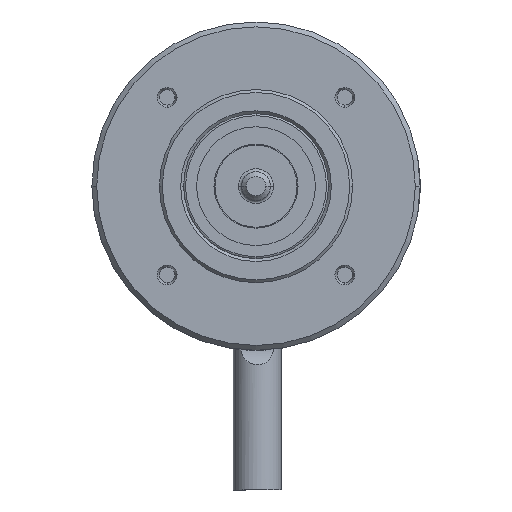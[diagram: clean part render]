
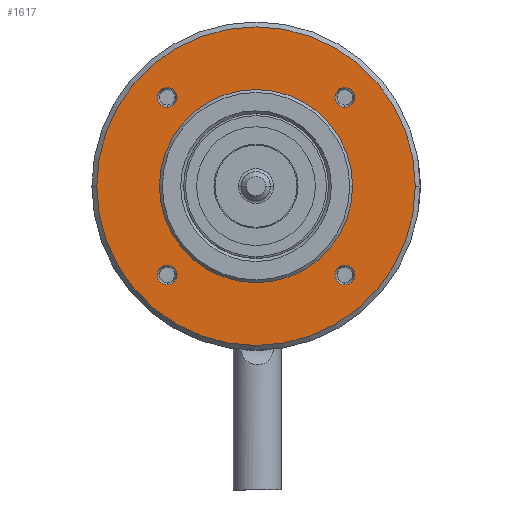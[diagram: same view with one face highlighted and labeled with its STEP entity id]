
A CAD part, left-side view. The second image highlights one B-rep face of the part: STEP entity #1617.
In plain terms, the highlighted planar face has unit normal (-1, 0, 0).
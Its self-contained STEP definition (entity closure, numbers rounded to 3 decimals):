
#73 = ORIENTED_EDGE ( 'NONE', *, *, #111, .T. ) ;
#98 = DIRECTION ( 'NONE',  ( 0., 0., 1. ) ) ;
#108 = DIRECTION ( 'NONE',  ( -1., 0., 0. ) ) ;
#111 = EDGE_CURVE ( 'NONE', #2976, #2648, #2350, .T. ) ;
#148 = PLANE ( 'NONE',  #1637 ) ;
#227 = DIRECTION ( 'NONE',  ( -1., 0., 0. ) ) ;
#234 = CARTESIAN_POINT ( 'NONE',  ( 9.545, 24.268, 16.565 ) ) ;
#487 = CARTESIAN_POINT ( 'NONE',  ( 9.545, 5.076, 25.757 ) ) ;
#550 = DIRECTION ( 'NONE',  ( -1., 0., 0. ) ) ;
#762 = EDGE_LOOP ( 'NONE', ( #3876, #3888 ) ) ;
#780 = VERTEX_POINT ( 'NONE', #4642 ) ;
#783 = CIRCLE ( 'NONE', #1080, 1.025 ) ;
#849 = DIRECTION ( 'NONE',  ( 0., 0., 1. ) ) ;
#934 = FACE_BOUND ( 'NONE', #3373, .T. ) ;
#939 = FACE_OUTER_BOUND ( 'NONE', #2884, .T. ) ;
#948 = VERTEX_POINT ( 'NONE', #1390 ) ;
#992 = AXIS2_PLACEMENT_3D ( 'NONE', #1362, #4121, #1819 ) ;
#997 = AXIS2_PLACEMENT_3D ( 'NONE', #4451, #2191, #4831 ) ;
#1023 = AXIS2_PLACEMENT_3D ( 'NONE', #4391, #2128, #4765 ) ;
#1039 = AXIS2_PLACEMENT_3D ( 'NONE', #3950, #1603, #4319 ) ;
#1057 = AXIS2_PLACEMENT_3D ( 'NONE', #4645, #2406, #98 ) ;
#1068 = AXIS2_PLACEMENT_3D ( 'NONE', #2999, #550, #3379 ) ;
#1080 = AXIS2_PLACEMENT_3D ( 'NONE', #2558, #227, #2965 ) ;
#1087 = AXIS2_PLACEMENT_3D ( 'NONE', #487, #3289, #849 ) ;
#1098 = EDGE_LOOP ( 'NONE', ( #73, #3374 ) ) ;
#1105 = AXIS2_PLACEMENT_3D ( 'NONE', #1230, #3997, #1665 ) ;
#1129 = AXIS2_PLACEMENT_3D ( 'NONE', #2423, #108, #2807 ) ;
#1155 = VERTEX_POINT ( 'NONE', #3647 ) ;
#1230 = CARTESIAN_POINT ( 'NONE',  ( 9.545, 23.46, 25.757 ) ) ;
#1362 = CARTESIAN_POINT ( 'NONE',  ( 9.545, 14.268, 16.565 ) ) ;
#1390 = CARTESIAN_POINT ( 'NONE',  ( 9.545, 23.46, 6.347 ) ) ;
#1513 = EDGE_CURVE ( 'NONE', #1155, #3925, #3896, .T. ) ;
#1590 = CARTESIAN_POINT ( 'NONE',  ( 9.545, 30.768, 16.565 ) ) ;
#1603 = DIRECTION ( 'NONE',  ( -1., 0., 0. ) ) ;
#1617 = ADVANCED_FACE ( 'NONE', ( #939, #934, #3281, #3284, #3272, #3269 ), #148, .T. ) ;
#1637 = AXIS2_PLACEMENT_3D ( 'NONE', #4370, #2098, #4737 ) ;
#1640 = CARTESIAN_POINT ( 'NONE',  ( 9.545, 23.46, 24.732 ) ) ;
#1665 = DIRECTION ( 'NONE',  ( 0., 0., 1. ) ) ;
#1718 = CIRCLE ( 'NONE', #992, 10. ) ;
#1722 = CIRCLE ( 'NONE', #997, 16.5 ) ;
#1755 = EDGE_LOOP ( 'NONE', ( #3942, #3960 ) ) ;
#1792 = CIRCLE ( 'NONE', #1039, 1.025 ) ;
#1800 = CIRCLE ( 'NONE', #1023, 1.025 ) ;
#1819 = DIRECTION ( 'NONE',  ( 0., 1., 0. ) ) ;
#1866 = CIRCLE ( 'NONE', #1068, 1.025 ) ;
#1942 = VERTEX_POINT ( 'NONE', #4221 ) ;
#1996 = AXIS2_PLACEMENT_3D ( 'NONE', #2079, #4713, #2470 ) ;
#2017 = CIRCLE ( 'NONE', #1057, 1.025 ) ;
#2024 = CIRCLE ( 'NONE', #1087, 1.025 ) ;
#2034 = CIRCLE ( 'NONE', #1105, 1.025 ) ;
#2079 = CARTESIAN_POINT ( 'NONE',  ( 9.545, 14.268, 16.565 ) ) ;
#2098 = DIRECTION ( 'NONE',  ( -1., 0., 0. ) ) ;
#2128 = DIRECTION ( 'NONE',  ( -1., 0., 0. ) ) ;
#2139 = CIRCLE ( 'NONE', #1129, 1.025 ) ;
#2174 = CARTESIAN_POINT ( 'NONE',  ( 9.545, 23.46, 26.782 ) ) ;
#2191 = DIRECTION ( 'NONE',  ( -1., 0., 0. ) ) ;
#2315 = CARTESIAN_POINT ( 'NONE',  ( 9.545, 5.076, 8.397 ) ) ;
#2350 = CIRCLE ( 'NONE', #3548, 10. ) ;
#2406 = DIRECTION ( 'NONE',  ( -1., 0., 0. ) ) ;
#2423 = CARTESIAN_POINT ( 'NONE',  ( 9.545, 23.46, 7.372 ) ) ;
#2470 = DIRECTION ( 'NONE',  ( 0., -1., 0. ) ) ;
#2558 = CARTESIAN_POINT ( 'NONE',  ( 9.545, 5.076, 7.372 ) ) ;
#2648 = VERTEX_POINT ( 'NONE', #4740 ) ;
#2807 = DIRECTION ( 'NONE',  ( 0., 0., 1. ) ) ;
#2884 = EDGE_LOOP ( 'NONE', ( #3900, #3883 ) ) ;
#2965 = DIRECTION ( 'NONE',  ( 0., 0., 1. ) ) ;
#2976 = VERTEX_POINT ( 'NONE', #234 ) ;
#2999 = CARTESIAN_POINT ( 'NONE',  ( 9.545, 5.076, 7.372 ) ) ;
#3269 = FACE_BOUND ( 'NONE', #1098, .T. ) ;
#3272 = FACE_BOUND ( 'NONE', #1755, .T. ) ;
#3281 = FACE_BOUND ( 'NONE', #762, .T. ) ;
#3284 = FACE_BOUND ( 'NONE', #4635, .T. ) ;
#3289 = DIRECTION ( 'NONE',  ( -1., 0., 0. ) ) ;
#3373 = EDGE_LOOP ( 'NONE', ( #3885, #3871 ) ) ;
#3374 = ORIENTED_EDGE ( 'NONE', *, *, #4016, .T. ) ;
#3379 = DIRECTION ( 'NONE',  ( 0., 0., 1. ) ) ;
#3460 = CARTESIAN_POINT ( 'NONE',  ( 9.545, 23.46, 8.397 ) ) ;
#3484 = CARTESIAN_POINT ( 'NONE',  ( 9.545, 5.076, 26.782 ) ) ;
#3548 = AXIS2_PLACEMENT_3D ( 'NONE', #4211, #4201, #4196 ) ;
#3647 = CARTESIAN_POINT ( 'NONE',  ( 9.545, -2.232, 16.565 ) ) ;
#3691 = EDGE_CURVE ( 'NONE', #948, #4592, #2139, .T. ) ;
#3738 = EDGE_CURVE ( 'NONE', #4231, #4810, #2034, .T. ) ;
#3780 = EDGE_CURVE ( 'NONE', #1942, #4141, #2024, .T. ) ;
#3836 = EDGE_CURVE ( 'NONE', #780, #4124, #783, .T. ) ;
#3869 = EDGE_CURVE ( 'NONE', #4124, #780, #1866, .T. ) ;
#3871 = ORIENTED_EDGE ( 'NONE', *, *, #3691, .F. ) ;
#3876 = ORIENTED_EDGE ( 'NONE', *, *, #3926, .F. ) ;
#3883 = ORIENTED_EDGE ( 'NONE', *, *, #1513, .T. ) ;
#3885 = ORIENTED_EDGE ( 'NONE', *, *, #3948, .F. ) ;
#3888 = ORIENTED_EDGE ( 'NONE', *, *, #3738, .F. ) ;
#3895 = EDGE_CURVE ( 'NONE', #4141, #1942, #2017, .T. ) ;
#3896 = CIRCLE ( 'NONE', #1996, 16.5 ) ;
#3900 = ORIENTED_EDGE ( 'NONE', *, *, #3995, .T. ) ;
#3919 = ORIENTED_EDGE ( 'NONE', *, *, #3895, .F. ) ;
#3925 = VERTEX_POINT ( 'NONE', #1590 ) ;
#3926 = EDGE_CURVE ( 'NONE', #4810, #4231, #1792, .T. ) ;
#3932 = ORIENTED_EDGE ( 'NONE', *, *, #3780, .F. ) ;
#3942 = ORIENTED_EDGE ( 'NONE', *, *, #3869, .F. ) ;
#3948 = EDGE_CURVE ( 'NONE', #4592, #948, #1800, .T. ) ;
#3950 = CARTESIAN_POINT ( 'NONE',  ( 9.545, 23.46, 25.757 ) ) ;
#3960 = ORIENTED_EDGE ( 'NONE', *, *, #3836, .F. ) ;
#3995 = EDGE_CURVE ( 'NONE', #3925, #1155, #1722, .T. ) ;
#3997 = DIRECTION ( 'NONE',  ( -1., 0., 0. ) ) ;
#4016 = EDGE_CURVE ( 'NONE', #2648, #2976, #1718, .T. ) ;
#4121 = DIRECTION ( 'NONE',  ( 1., 0., 0. ) ) ;
#4124 = VERTEX_POINT ( 'NONE', #2315 ) ;
#4141 = VERTEX_POINT ( 'NONE', #3484 ) ;
#4196 = DIRECTION ( 'NONE',  ( 0., 1., 0. ) ) ;
#4201 = DIRECTION ( 'NONE',  ( 1., 0., 0. ) ) ;
#4211 = CARTESIAN_POINT ( 'NONE',  ( 9.545, 14.268, 16.565 ) ) ;
#4221 = CARTESIAN_POINT ( 'NONE',  ( 9.545, 5.076, 24.732 ) ) ;
#4231 = VERTEX_POINT ( 'NONE', #1640 ) ;
#4319 = DIRECTION ( 'NONE',  ( 0., 0., 1. ) ) ;
#4370 = CARTESIAN_POINT ( 'NONE',  ( 9.545, 24.268, 16.565 ) ) ;
#4391 = CARTESIAN_POINT ( 'NONE',  ( 9.545, 23.46, 7.372 ) ) ;
#4451 = CARTESIAN_POINT ( 'NONE',  ( 9.545, 14.268, 16.565 ) ) ;
#4592 = VERTEX_POINT ( 'NONE', #3460 ) ;
#4635 = EDGE_LOOP ( 'NONE', ( #3919, #3932 ) ) ;
#4642 = CARTESIAN_POINT ( 'NONE',  ( 9.545, 5.076, 6.347 ) ) ;
#4645 = CARTESIAN_POINT ( 'NONE',  ( 9.545, 5.076, 25.757 ) ) ;
#4713 = DIRECTION ( 'NONE',  ( -1., 0., 0. ) ) ;
#4737 = DIRECTION ( 'NONE',  ( 0., -1., 0. ) ) ;
#4740 = CARTESIAN_POINT ( 'NONE',  ( 9.545, 4.268, 16.565 ) ) ;
#4765 = DIRECTION ( 'NONE',  ( 0., 0., 1. ) ) ;
#4810 = VERTEX_POINT ( 'NONE', #2174 ) ;
#4831 = DIRECTION ( 'NONE',  ( 0., -1., 0. ) ) ;
